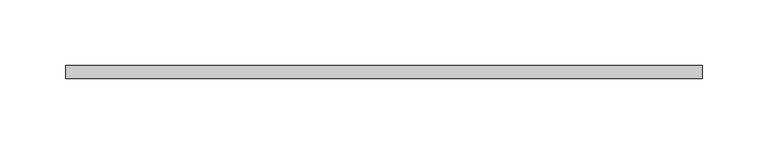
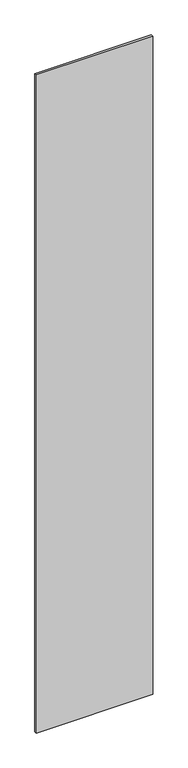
"""IFC4 building model written with IfcOpenShell, lengths in millimetres: plate geometry, システム パネル : 標準."""

from ifc_helpers import new_model, si_unit, origin, origin_with_axes, place, context, project, spatial, polyline, outline, extrude, source, transform, mapped, element, save


def plate_88a24ec0(model_context):
    return source(origin(), model_context, "Body", "SweptSolid", [
        extrude(outline(polyline([(242.5, -5.0), (-242.5, -5.0), (-242.5, 5.0), (242.5, 5.0), (242.5, -5.0)])), origin_with_axes(), (0.0, 0.0, 1.0), 2895.0),
    ])


if __name__ == "__main__":
    model = new_model("IFC4")
    model_context = context("Model", 3, world=origin())
    ifc_project = project(units=[si_unit("LENGTHUNIT", "METRE", prefix="MILLI")], contexts=[model_context])
    site = spatial("IfcSite", under=ifc_project)
    building = spatial("IfcBuilding", under=site)
    placement = place(None, origin())
    plate_shape = plate_88a24ec0(model_context)
    element("IfcPlate", 1, ObjectType="システム パネル : 標準", at=placement, inside=building, context=model_context, shape_type="MappedRepresentation", body=[
        mapped(plate_shape, transform((0.0, 0.0, 0.0), x_axis=(1.0, 0.0, 0.0), y_axis=(0.0, 1.0, 0.0), z_axis=(0.0, 0.0, 1.0))),
    ])
    save(model, "model.ifc")
